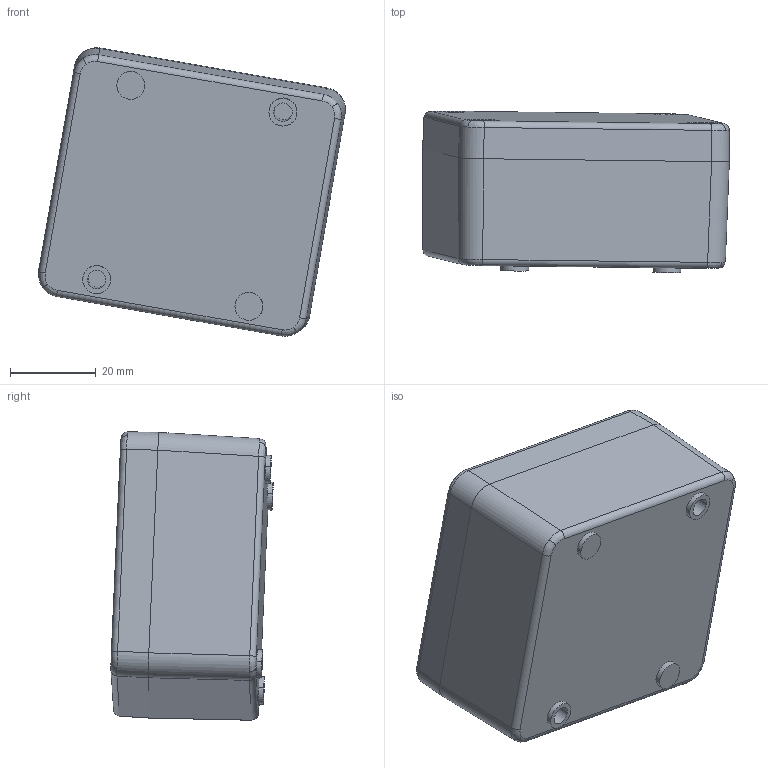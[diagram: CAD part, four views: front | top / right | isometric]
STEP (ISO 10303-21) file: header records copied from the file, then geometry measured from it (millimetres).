
FILE_DESCRIPTION (( 'STEP AP214' ), '1' );
FILE_NAME ('Zag 2 Assembly.STEP', '2016-05-03T07:36:47', ( '' ), ( '' ), 'SwSTEP 2.0', 'SolidWorks 2015', '' );
FILE_SCHEMA (( 'AUTOMOTIVE_DESIGN' ));
Length unit declared in the file: millimetre
Products named in the file (4): Zag 2 Assembly; Zag 2 Lid; Zag 2 Body; pan cross head_am_B18.6.7M - M4 x 0.7 x 16 Type I Cross Recessed PHMS --16C
Assembly tree (6 placements, depth 2):
  Zag 2 Assembly
    pan cross head_am_B18.6.7M - M4 x 0.7 x 16 Type I Cross Recessed PHMS --16C  x4
    Zag 2 Body
    Zag 2 Lid
Bounding box: 71.46 x 37.8 x 67.22 mm (x, y, z)
Volume: 61201.8 mm3; surface area: 32259 mm2
Topology: 6 solids, 6 shells, 388 faces, 941 edges, 570 vertices
Faces by surface type: plane 133, cylinder 106, cone 80, torus 31, bspline 26, sphere 12
Entity records: 11658 total; most frequent: CARTESIAN_POINT 3857, DIRECTION 1654, ORIENTED_EDGE 1542, EDGE_CURVE 771, AXIS2_PLACEMENT_3D 653, VERTEX_POINT 480, EDGE_LOOP 353, CIRCLE 351
